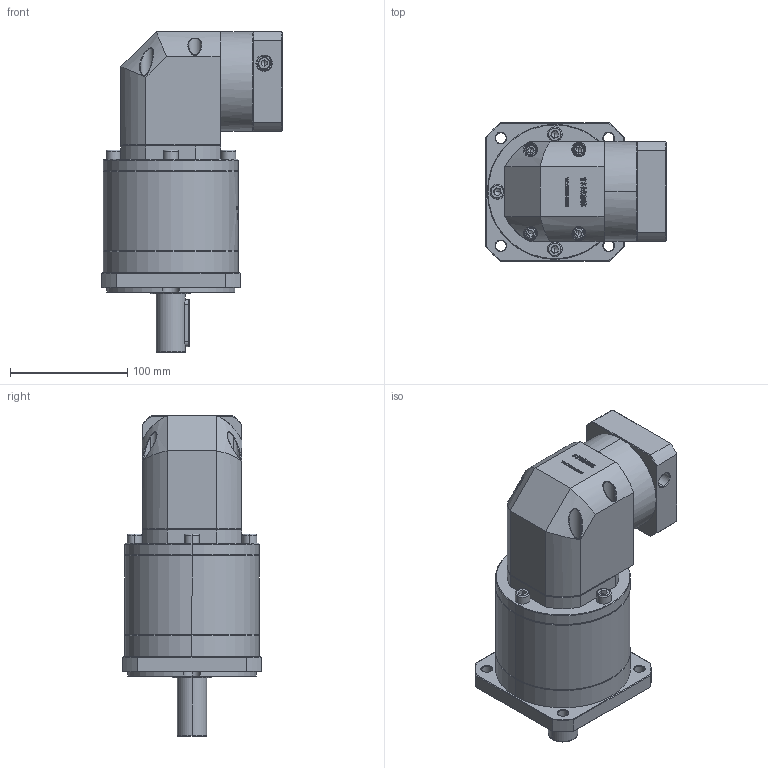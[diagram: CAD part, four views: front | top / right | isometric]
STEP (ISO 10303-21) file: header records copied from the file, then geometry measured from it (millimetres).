
FILE_DESCRIPTION (( 'STEP AP214' ), '1' );
FILE_NAME ('ZFR120A-D25-L3-12.7-73-69.5X69.5-M6.step', '2023-03-08T05:46:45', ( '' ), ( '' ), 'SwSTEP 2.0', 'SolidWorks 2016', '' );
FILE_SCHEMA (( 'AUTOMOTIVE_DESIGN' ));
Length unit declared in the file: millimetre
Products named in the file (1): ZFR120A-D25-L3-12.7-73-69.5X69.5-M6
Bounding box: 154.1 x 118 x 273.5 mm (x, y, z)
Volume: 2148453.2 mm3; surface area: 180785.3 mm2
Topology: 6 solids, 6 shells, 2998 faces, 7961 edges, 5109 vertices
Faces by surface type: plane 1578, bspline 625, cylinder 453, cone 328, torus 14
Entity records: 163600 total; most frequent: CARTESIAN_POINT 62162, ORIENTED_EDGE 15830, DIRECTION 11656, EDGE_CURVE 7915, VERTEX_POINT 5109, LINE 4928, VECTOR 4928, AXIS2_PLACEMENT_3D 3364
